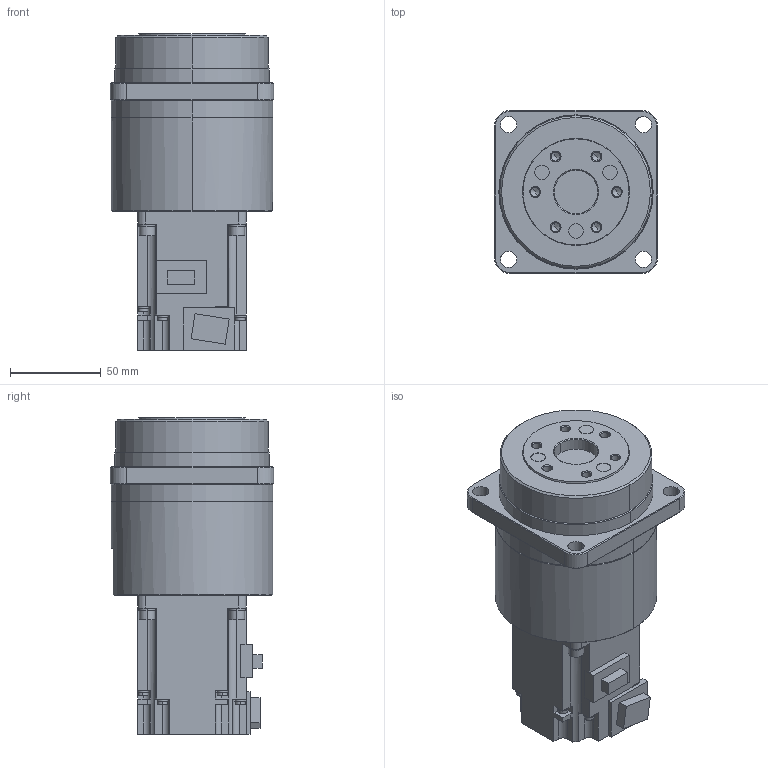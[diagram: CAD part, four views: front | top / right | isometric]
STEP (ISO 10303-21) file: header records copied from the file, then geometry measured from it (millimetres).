
FILE_DESCRIPTION((''),'2;1');
FILE_NAME('HG-KR23G5_213345_','2012-03-12T',('FC54009'),(''),'PRO/ENGINEER BY PARAMETRIC TECHNOLOGY CORPORATION, 2009400','PRO/ENGINEER BY PARAMETRIC TECHNOLOGY CORPORATION, 2009400','');
FILE_SCHEMA(('CONFIG_CONTROL_DESIGN'));
Length unit declared in the file: millimetre
Products named in the file (1): HG-KR23G5_213345_
Bounding box: 90 x 90 x 174.6 mm (x, y, z)
Volume: 836528.8 mm3; surface area: 68023.2 mm2
Topology: 1 solids, 1 shells, 424 faces, 1036 edges, 664 vertices
Faces by surface type: plane 199, cylinder 163, cone 60, torus 2
Entity records: 12493 total; most frequent: DIRECTION 2281, CARTESIAN_POINT 2120, ORIENTED_EDGE 2048, EDGE_CURVE 1024, AXIS2_PLACEMENT_3D 835, VERTEX_POINT 664, VECTOR 611, LINE 611
